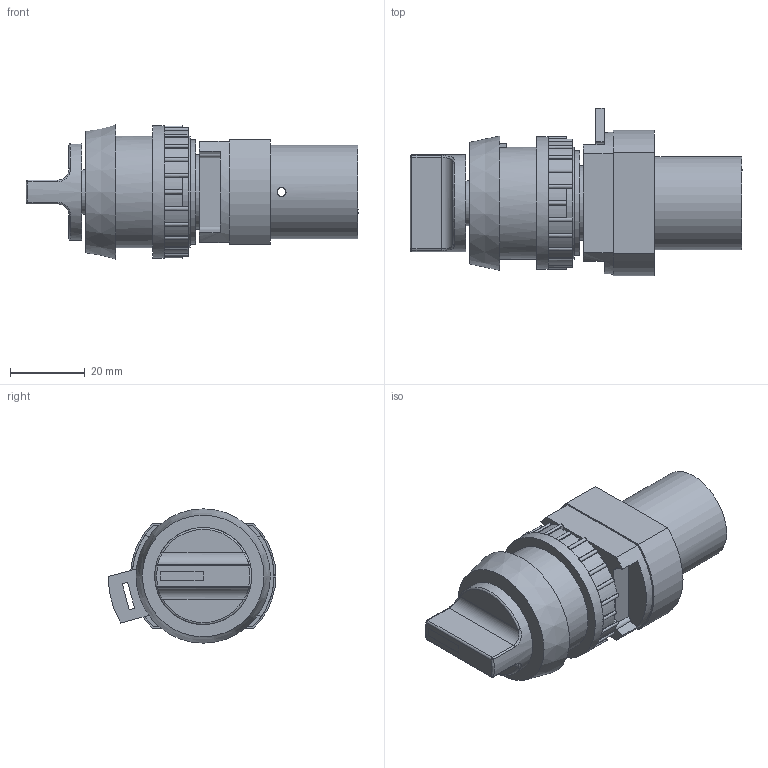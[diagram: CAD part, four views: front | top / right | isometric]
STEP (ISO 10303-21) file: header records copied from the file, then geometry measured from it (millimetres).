
FILE_DESCRIPTION (( 'STEP AP214' ), '1' );
FILE_NAME ('18-T-30-013---T-30-310_Airtec.step', '2018-11-15T13:14:44', ( '' ), ( '' ), 'SwSTEP 2.0', 'SolidWorks 2010', '' );
FILE_SCHEMA (( 'AUTOMOTIVE_DESIGN' ));
Length unit declared in the file: millimetre
Products named in the file (3): T-30-310-Airtec; 18-T-30-013-Airtec; 18-T-30-013---T-30-310_Airtec
Assembly tree (2 placements, depth 2):
  18-T-30-013---T-30-310_Airtec
    18-T-30-013-Airtec
    T-30-310-Airtec
Bounding box: 89 x 45 x 36 mm (x, y, z)
Volume: 55748.9 mm3; surface area: 16140.6 mm2
Topology: 2 solids, 2 shells, 297 faces, 785 edges, 502 vertices
Faces by surface type: plane 140, cylinder 140, bspline 13, cone 4
Full cylindrical faces by diameter (mm): 2.4 x1, 4.134 x2, 5 x1, 9 x1, 12 x1, 16 x1, 20 x1, 25 x1, 26 x1, 28 x1, 30 x2, 35.5 x1
Entity records: 9837 total; most frequent: CARTESIAN_POINT 2306, DIRECTION 1657, ORIENTED_EDGE 1506, EDGE_CURVE 753, AXIS2_PLACEMENT_3D 637, VERTEX_POINT 493, VECTOR 383, LINE 383
